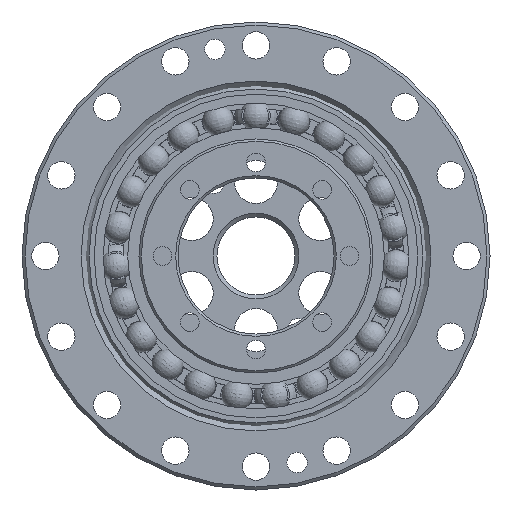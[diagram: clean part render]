
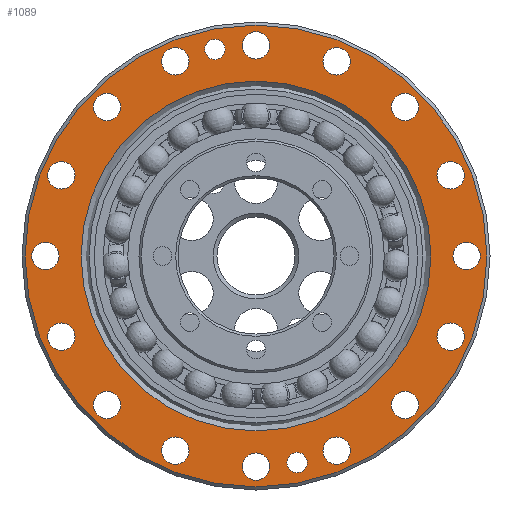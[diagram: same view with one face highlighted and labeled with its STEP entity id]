
A CAD part, left-side view. The second image highlights one B-rep face of the part: STEP entity #1089.
In plain terms, the highlighted planar face has unit normal (-1, 0, 0).
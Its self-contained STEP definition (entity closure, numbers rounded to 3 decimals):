
#901=PLANE('',#4752);
#1089=ADVANCED_FACE('',(#1355,#1356,#1357,#1358,#1359,#1360,#1361,#1362,
#1363,#1364,#1365,#1366,#1367,#1368,#1369,#1370,#1371,#1372,#1373,#1374),
#901,.F.);
#1355=FACE_BOUND('',#1773,.T.);
#1356=FACE_BOUND('',#1774,.T.);
#1357=FACE_BOUND('',#1775,.T.);
#1358=FACE_BOUND('',#1776,.T.);
#1359=FACE_BOUND('',#1777,.T.);
#1360=FACE_BOUND('',#1778,.T.);
#1361=FACE_BOUND('',#1779,.T.);
#1362=FACE_BOUND('',#1780,.T.);
#1363=FACE_BOUND('',#1781,.T.);
#1364=FACE_BOUND('',#1782,.T.);
#1365=FACE_BOUND('',#1783,.T.);
#1366=FACE_BOUND('',#1784,.T.);
#1367=FACE_BOUND('',#1785,.T.);
#1368=FACE_BOUND('',#1786,.T.);
#1369=FACE_BOUND('',#1787,.T.);
#1370=FACE_BOUND('',#1788,.T.);
#1371=FACE_BOUND('',#1789,.T.);
#1372=FACE_BOUND('',#1790,.T.);
#1373=FACE_BOUND('',#1791,.T.);
#1374=FACE_BOUND('',#1792,.T.);
#1773=EDGE_LOOP('',(#2857));
#1774=EDGE_LOOP('',(#2858));
#1775=EDGE_LOOP('',(#2859));
#1776=EDGE_LOOP('',(#2860));
#1777=EDGE_LOOP('',(#2861));
#1778=EDGE_LOOP('',(#2862));
#1779=EDGE_LOOP('',(#2863));
#1780=EDGE_LOOP('',(#2864));
#1781=EDGE_LOOP('',(#2865));
#1782=EDGE_LOOP('',(#2866));
#1783=EDGE_LOOP('',(#2867));
#1784=EDGE_LOOP('',(#2868));
#1785=EDGE_LOOP('',(#2869));
#1786=EDGE_LOOP('',(#2870));
#1787=EDGE_LOOP('',(#2871));
#1788=EDGE_LOOP('',(#2872));
#1789=EDGE_LOOP('',(#2873));
#1790=EDGE_LOOP('',(#2874));
#1791=EDGE_LOOP('',(#2875));
#1792=EDGE_LOOP('',(#2876));
#2857=ORIENTED_EDGE('',*,*,#3907,.T.);
#2858=ORIENTED_EDGE('',*,*,#3908,.T.);
#2859=ORIENTED_EDGE('',*,*,#3909,.T.);
#2860=ORIENTED_EDGE('',*,*,#3910,.T.);
#2861=ORIENTED_EDGE('',*,*,#3911,.T.);
#2862=ORIENTED_EDGE('',*,*,#3912,.T.);
#2863=ORIENTED_EDGE('',*,*,#3913,.T.);
#2864=ORIENTED_EDGE('',*,*,#3914,.T.);
#2865=ORIENTED_EDGE('',*,*,#3915,.T.);
#2866=ORIENTED_EDGE('',*,*,#3916,.T.);
#2867=ORIENTED_EDGE('',*,*,#3917,.T.);
#2868=ORIENTED_EDGE('',*,*,#3918,.T.);
#2869=ORIENTED_EDGE('',*,*,#3919,.T.);
#2870=ORIENTED_EDGE('',*,*,#3920,.T.);
#2871=ORIENTED_EDGE('',*,*,#3921,.T.);
#2872=ORIENTED_EDGE('',*,*,#3922,.T.);
#2873=ORIENTED_EDGE('',*,*,#3923,.T.);
#2874=ORIENTED_EDGE('',*,*,#3924,.T.);
#2875=ORIENTED_EDGE('',*,*,#3925,.T.);
#2876=ORIENTED_EDGE('',*,*,#3926,.T.);
#3343=VERTEX_POINT('',#9609);
#3344=VERTEX_POINT('',#9611);
#3345=VERTEX_POINT('',#9613);
#3346=VERTEX_POINT('',#9615);
#3347=VERTEX_POINT('',#9617);
#3348=VERTEX_POINT('',#9619);
#3349=VERTEX_POINT('',#9621);
#3350=VERTEX_POINT('',#9623);
#3351=VERTEX_POINT('',#9625);
#3352=VERTEX_POINT('',#9627);
#3353=VERTEX_POINT('',#9629);
#3354=VERTEX_POINT('',#9631);
#3355=VERTEX_POINT('',#9633);
#3356=VERTEX_POINT('',#9635);
#3357=VERTEX_POINT('',#9637);
#3358=VERTEX_POINT('',#9639);
#3359=VERTEX_POINT('',#9641);
#3360=VERTEX_POINT('',#9643);
#3361=VERTEX_POINT('',#9645);
#3362=VERTEX_POINT('',#9647);
#3907=EDGE_CURVE('',#3343,#3343,#4195,.T.);
#3908=EDGE_CURVE('',#3344,#3344,#4196,.T.);
#3909=EDGE_CURVE('',#3345,#3345,#4197,.T.);
#3910=EDGE_CURVE('',#3346,#3346,#4198,.T.);
#3911=EDGE_CURVE('',#3347,#3347,#4199,.T.);
#3912=EDGE_CURVE('',#3348,#3348,#4200,.T.);
#3913=EDGE_CURVE('',#3349,#3349,#4201,.T.);
#3914=EDGE_CURVE('',#3350,#3350,#4202,.T.);
#3915=EDGE_CURVE('',#3351,#3351,#4203,.T.);
#3916=EDGE_CURVE('',#3352,#3352,#4204,.T.);
#3917=EDGE_CURVE('',#3353,#3353,#4205,.T.);
#3918=EDGE_CURVE('',#3354,#3354,#4206,.T.);
#3919=EDGE_CURVE('',#3355,#3355,#4207,.T.);
#3920=EDGE_CURVE('',#3356,#3356,#4208,.T.);
#3921=EDGE_CURVE('',#3357,#3357,#4209,.T.);
#3922=EDGE_CURVE('',#3358,#3358,#4210,.T.);
#3923=EDGE_CURVE('',#3359,#3359,#4211,.T.);
#3924=EDGE_CURVE('',#3360,#3360,#4212,.T.);
#3925=EDGE_CURVE('',#3361,#3361,#4213,.T.);
#3926=EDGE_CURVE('',#3362,#3362,#4214,.T.);
#4195=CIRCLE('',#4732,22.425);
#4196=CIRCLE('',#4733,29.6);
#4197=CIRCLE('',#4734,1.3);
#4198=CIRCLE('',#4735,1.3);
#4199=CIRCLE('',#4736,1.75);
#4200=CIRCLE('',#4737,1.75);
#4201=CIRCLE('',#4738,1.75);
#4202=CIRCLE('',#4739,1.75);
#4203=CIRCLE('',#4740,1.75);
#4204=CIRCLE('',#4741,1.75);
#4205=CIRCLE('',#4742,1.75);
#4206=CIRCLE('',#4743,1.75);
#4207=CIRCLE('',#4744,1.75);
#4208=CIRCLE('',#4745,1.75);
#4209=CIRCLE('',#4746,1.75);
#4210=CIRCLE('',#4747,1.75);
#4211=CIRCLE('',#4748,1.75);
#4212=CIRCLE('',#4749,1.75);
#4213=CIRCLE('',#4750,1.75);
#4214=CIRCLE('',#4751,1.75);
#4732=AXIS2_PLACEMENT_3D('',#9608,#5707,#5708);
#4733=AXIS2_PLACEMENT_3D('',#9610,#5709,#5710);
#4734=AXIS2_PLACEMENT_3D('',#9612,#5711,#5712);
#4735=AXIS2_PLACEMENT_3D('',#9614,#5713,#5714);
#4736=AXIS2_PLACEMENT_3D('',#9616,#5715,#5716);
#4737=AXIS2_PLACEMENT_3D('',#9618,#5717,#5718);
#4738=AXIS2_PLACEMENT_3D('',#9620,#5719,#5720);
#4739=AXIS2_PLACEMENT_3D('',#9622,#5721,#5722);
#4740=AXIS2_PLACEMENT_3D('',#9624,#5723,#5724);
#4741=AXIS2_PLACEMENT_3D('',#9626,#5725,#5726);
#4742=AXIS2_PLACEMENT_3D('',#9628,#5727,#5728);
#4743=AXIS2_PLACEMENT_3D('',#9630,#5729,#5730);
#4744=AXIS2_PLACEMENT_3D('',#9632,#5731,#5732);
#4745=AXIS2_PLACEMENT_3D('',#9634,#5733,#5734);
#4746=AXIS2_PLACEMENT_3D('',#9636,#5735,#5736);
#4747=AXIS2_PLACEMENT_3D('',#9638,#5737,#5738);
#4748=AXIS2_PLACEMENT_3D('',#9640,#5739,#5740);
#4749=AXIS2_PLACEMENT_3D('',#9642,#5741,#5742);
#4750=AXIS2_PLACEMENT_3D('',#9644,#5743,#5744);
#4751=AXIS2_PLACEMENT_3D('',#9646,#5745,#5746);
#4752=AXIS2_PLACEMENT_3D('',#9648,#5747,#5748);
#5707=DIRECTION('',(1.,0.,0.));
#5708=DIRECTION('',(0.,0.,-1.));
#5709=DIRECTION('',(-1.,0.,0.));
#5710=DIRECTION('',(0.,0.,-1.));
#5711=DIRECTION('',(1.,0.,0.));
#5712=DIRECTION('',(0.,0.,-1.));
#5713=DIRECTION('',(1.,0.,0.));
#5714=DIRECTION('',(0.,0.,-1.));
#5715=DIRECTION('',(1.,0.,0.));
#5716=DIRECTION('',(0.,0.,-1.));
#5717=DIRECTION('',(1.,0.,0.));
#5718=DIRECTION('',(0.,0.,-1.));
#5719=DIRECTION('',(1.,0.,0.));
#5720=DIRECTION('',(0.,0.,-1.));
#5721=DIRECTION('',(1.,0.,0.));
#5722=DIRECTION('',(0.,0.,-1.));
#5723=DIRECTION('',(1.,0.,0.));
#5724=DIRECTION('',(0.,0.,-1.));
#5725=DIRECTION('',(1.,0.,0.));
#5726=DIRECTION('',(0.,0.,-1.));
#5727=DIRECTION('',(1.,0.,0.));
#5728=DIRECTION('',(0.,0.,-1.));
#5729=DIRECTION('',(1.,0.,0.));
#5730=DIRECTION('',(0.,0.,-1.));
#5731=DIRECTION('',(1.,0.,0.));
#5732=DIRECTION('',(0.,0.,-1.));
#5733=DIRECTION('',(1.,0.,0.));
#5734=DIRECTION('',(0.,0.,-1.));
#5735=DIRECTION('',(1.,0.,0.));
#5736=DIRECTION('',(0.,0.,-1.));
#5737=DIRECTION('',(1.,0.,0.));
#5738=DIRECTION('',(0.,0.,-1.));
#5739=DIRECTION('',(1.,0.,0.));
#5740=DIRECTION('',(0.,0.,-1.));
#5741=DIRECTION('',(1.,0.,0.));
#5742=DIRECTION('',(0.,0.,-1.));
#5743=DIRECTION('',(1.,0.,0.));
#5744=DIRECTION('',(0.,0.,-1.));
#5745=DIRECTION('',(1.,0.,0.));
#5746=DIRECTION('',(0.,0.,-1.));
#5747=DIRECTION('',(1.,0.,0.));
#5748=DIRECTION('',(0.,0.,-1.));
#9608=CARTESIAN_POINT('',(0.,0.,0.));
#9609=CARTESIAN_POINT('',(0.,0.,-22.425));
#9610=CARTESIAN_POINT('',(0.,0.,0.));
#9611=CARTESIAN_POINT('',(0.,0.,-29.6));
#9612=CARTESIAN_POINT('',(0.,-5.267,-26.481));
#9613=CARTESIAN_POINT('',(0.,-5.267,-27.781));
#9614=CARTESIAN_POINT('',(0.,5.267,26.481));
#9615=CARTESIAN_POINT('',(0.,5.267,25.181));
#9616=CARTESIAN_POINT('',(0.,-19.092,19.092));
#9617=CARTESIAN_POINT('',(0.,-19.092,17.342));
#9618=CARTESIAN_POINT('',(0.,-10.332,24.945));
#9619=CARTESIAN_POINT('',(0.,-10.332,23.195));
#9620=CARTESIAN_POINT('',(0.,0.,27.));
#9621=CARTESIAN_POINT('',(0.,0.,25.25));
#9622=CARTESIAN_POINT('',(0.,10.332,24.945));
#9623=CARTESIAN_POINT('',(0.,10.332,23.195));
#9624=CARTESIAN_POINT('',(0.,19.092,19.092));
#9625=CARTESIAN_POINT('',(0.,19.092,17.342));
#9626=CARTESIAN_POINT('',(0.,24.945,10.332));
#9627=CARTESIAN_POINT('',(0.,24.945,8.582));
#9628=CARTESIAN_POINT('',(0.,27.,0.));
#9629=CARTESIAN_POINT('',(0.,27.,-1.75));
#9630=CARTESIAN_POINT('',(0.,24.945,-10.332));
#9631=CARTESIAN_POINT('',(0.,24.945,-12.082));
#9632=CARTESIAN_POINT('',(0.,19.092,-19.092));
#9633=CARTESIAN_POINT('',(0.,19.092,-20.842));
#9634=CARTESIAN_POINT('',(0.,10.332,-24.945));
#9635=CARTESIAN_POINT('',(0.,10.332,-26.695));
#9636=CARTESIAN_POINT('',(0.,0.,-27.));
#9637=CARTESIAN_POINT('',(0.,0.,-28.75));
#9638=CARTESIAN_POINT('',(0.,-10.332,-24.945));
#9639=CARTESIAN_POINT('',(0.,-10.332,-26.695));
#9640=CARTESIAN_POINT('',(0.,-19.092,-19.092));
#9641=CARTESIAN_POINT('',(0.,-19.092,-20.842));
#9642=CARTESIAN_POINT('',(0.,-24.945,-10.332));
#9643=CARTESIAN_POINT('',(0.,-24.945,-12.082));
#9644=CARTESIAN_POINT('',(0.,-27.,0.));
#9645=CARTESIAN_POINT('',(0.,-27.,-1.75));
#9646=CARTESIAN_POINT('',(0.,-24.945,10.332));
#9647=CARTESIAN_POINT('',(0.,-24.945,8.582));
#9648=CARTESIAN_POINT('',(0.,0.,30.));
